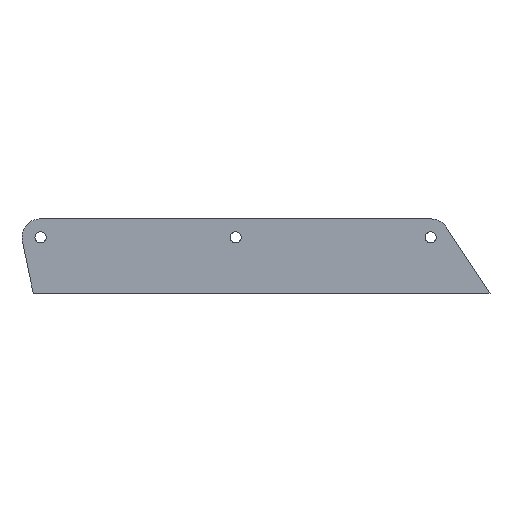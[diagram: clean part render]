
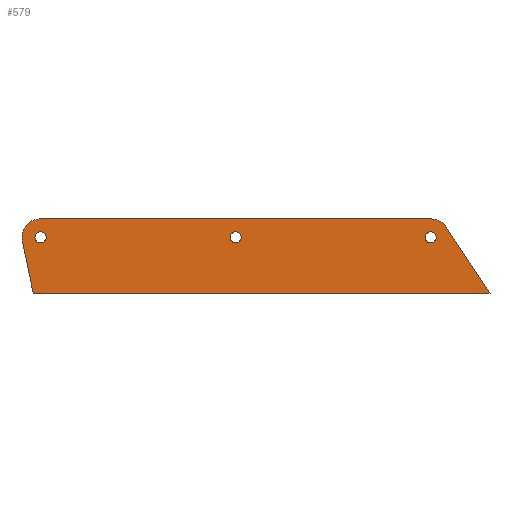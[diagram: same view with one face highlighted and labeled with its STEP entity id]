
A CAD part, top view. The second image highlights one B-rep face of the part: STEP entity #579.
In plain terms, the highlighted planar face has unit normal (0, 0, 1).
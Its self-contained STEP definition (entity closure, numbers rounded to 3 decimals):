
#267=PLANE('',#561);
#269=CIRCLE('',#547,15.);
#271=CIRCLE('',#553,15.);
#275=CIRCLE('',#560,4.5);
#276=CIRCLE('',#562,4.5);
#277=CIRCLE('',#563,4.5);
#313=ORIENTED_EDGE('',*,*,#375,.T.);
#314=ORIENTED_EDGE('',*,*,#389,.F.);
#315=ORIENTED_EDGE('',*,*,#387,.F.);
#316=ORIENTED_EDGE('',*,*,#384,.F.);
#317=ORIENTED_EDGE('',*,*,#381,.F.);
#318=ORIENTED_EDGE('',*,*,#378,.F.);
#319=ORIENTED_EDGE('',*,*,#393,.F.);
#320=ORIENTED_EDGE('',*,*,#394,.F.);
#321=ORIENTED_EDGE('',*,*,#395,.F.);
#330=VECTOR('',#448,1.);
#333=VECTOR('',#453,1.);
#336=VECTOR('',#458,1.);
#339=VECTOR('',#469,1.);
#344=LINE('',#506,#330);
#347=LINE('',#512,#333);
#350=LINE('',#518,#336);
#353=LINE('',#527,#339);
#355=VERTEX_POINT('',#494);
#357=VERTEX_POINT('',#498);
#359=VERTEX_POINT('',#503);
#361=VERTEX_POINT('',#509);
#363=VERTEX_POINT('',#515);
#365=VERTEX_POINT('',#521);
#369=VERTEX_POINT('',#536);
#370=VERTEX_POINT('',#539);
#371=VERTEX_POINT('',#541);
#375=EDGE_CURVE('',#355,#357,#269,.T.);
#378=EDGE_CURVE('',#355,#359,#344,.T.);
#381=EDGE_CURVE('',#359,#361,#347,.T.);
#384=EDGE_CURVE('',#361,#363,#350,.T.);
#387=EDGE_CURVE('',#363,#365,#271,.T.);
#389=EDGE_CURVE('',#365,#357,#353,.T.);
#393=EDGE_CURVE('',#369,#369,#275,.T.);
#394=EDGE_CURVE('',#370,#370,#276,.T.);
#395=EDGE_CURVE('',#371,#371,#277,.T.);
#408=EDGE_LOOP('',(#313,#314,#315,#316,#317,#318));
#409=EDGE_LOOP('',(#319));
#410=EDGE_LOOP('',(#320));
#411=EDGE_LOOP('',(#321));
#428=FACE_BOUND('',#408,.T.);
#429=FACE_BOUND('',#409,.T.);
#430=FACE_BOUND('',#410,.T.);
#431=FACE_BOUND('',#411,.T.);
#442=DIRECTION('',(0.,0.,1.));
#443=DIRECTION('',(0.,15.,0.));
#448=DIRECTION('',(35.413,-53.301,0.));
#453=DIRECTION('',(-368.793,0.,0.));
#458=DIRECTION('',(-8.79,41.922,0.));
#464=DIRECTION('',(0.,0.,-1.));
#465=DIRECTION('',(0.,-15.,0.));
#469=DIRECTION('',(314.995,0.,0.));
#480=DIRECTION('',(0.,0.,1.));
#481=DIRECTION('',(0.,-4.5,0.));
#482=DIRECTION('',(0.,0.,1.));
#483=DIRECTION('',(0.,-1.,0.));
#484=DIRECTION('',(0.,0.,1.));
#485=DIRECTION('',(0.,-4.5,0.));
#486=DIRECTION('',(0.,0.,1.));
#487=DIRECTION('',(0.,-4.5,0.));
#494=CARTESIAN_POINT('',(7403.61,12999.661,8.));
#498=CARTESIAN_POINT('',(7391.116,13006.36,8.));
#500=CARTESIAN_POINT('',(7391.116,12991.36,8.));
#503=CARTESIAN_POINT('',(7439.023,12946.36,8.));
#506=CARTESIAN_POINT('',(7403.61,12999.661,8.));
#509=CARTESIAN_POINT('',(7070.23,12946.36,8.));
#512=CARTESIAN_POINT('',(7439.023,12946.36,8.));
#515=CARTESIAN_POINT('',(7061.44,12988.282,8.));
#518=CARTESIAN_POINT('',(7070.23,12946.36,8.));
#521=CARTESIAN_POINT('',(7076.121,13006.36,8.));
#524=CARTESIAN_POINT('',(7076.121,12991.36,8.));
#527=CARTESIAN_POINT('',(7076.121,13006.36,8.));
#536=CARTESIAN_POINT('',(7076.121,12986.86,8.));
#537=CARTESIAN_POINT('',(7076.121,12991.36,8.));
#538=CARTESIAN_POINT('',(0.,0.,8.));
#539=CARTESIAN_POINT('',(7391.116,12986.86,8.));
#540=CARTESIAN_POINT('',(7391.116,12991.36,8.));
#541=CARTESIAN_POINT('',(7233.619,12986.86,8.));
#542=CARTESIAN_POINT('',(7233.619,12991.36,8.));
#547=AXIS2_PLACEMENT_3D('',#500,#442,#443);
#553=AXIS2_PLACEMENT_3D('',#524,#464,#465);
#560=AXIS2_PLACEMENT_3D('',#537,#480,#481);
#561=AXIS2_PLACEMENT_3D('',#538,#482,#483);
#562=AXIS2_PLACEMENT_3D('',#540,#484,#485);
#563=AXIS2_PLACEMENT_3D('',#542,#486,#487);
#579=ADVANCED_FACE('',(#428,#429,#430,#431),#267,.T.);
